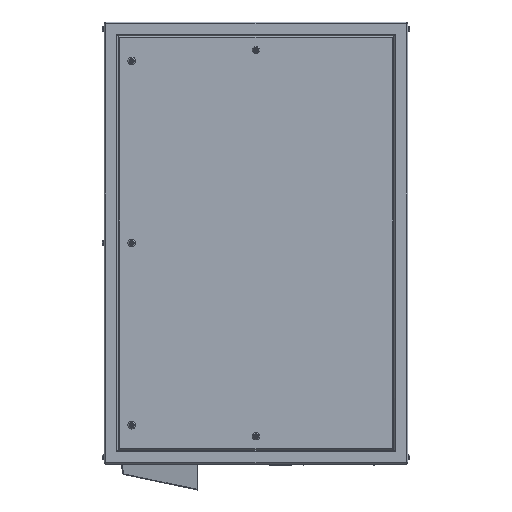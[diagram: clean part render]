
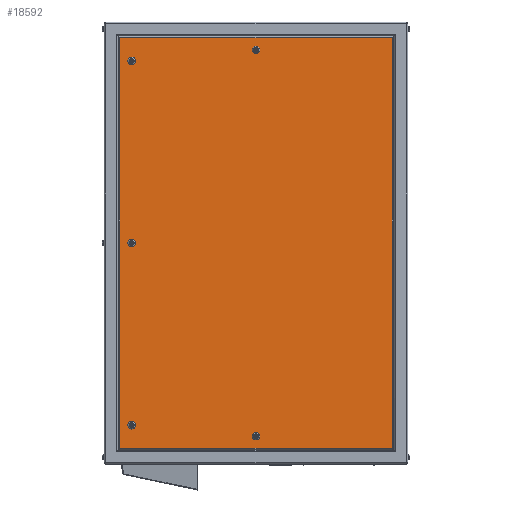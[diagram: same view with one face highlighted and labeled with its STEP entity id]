
A CAD part, left-side view. The second image highlights one B-rep face of the part: STEP entity #18592.
In plain terms, the highlighted planar face has unit normal (-1, 0, 0).
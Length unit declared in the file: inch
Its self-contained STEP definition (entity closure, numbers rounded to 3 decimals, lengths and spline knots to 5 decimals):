
#136 = LINE ( 'NONE', #12758, #4534 ) ;
#464 = CARTESIAN_POINT ( 'NONE',  ( -14., 22., -29.74 ) ) ;
#640 = DIRECTION ( 'NONE',  ( 1., 0., 0. ) ) ;
#699 = CARTESIAN_POINT ( 'NONE',  ( -14., 0., -28.5 ) ) ;
#931 = ORIENTED_EDGE ( 'NONE', *, *, #11203, .T. ) ;
#943 = DIRECTION ( 'NONE',  ( 1., 0., 0. ) ) ;
#961 = DIRECTION ( 'NONE',  ( 0., 0., 1. ) ) ;
#1279 = VERTEX_POINT ( 'NONE', #16439 ) ;
#1306 = FACE_OUTER_BOUND ( 'NONE', #6631, .T. ) ;
#1376 = ORIENTED_EDGE ( 'NONE', *, *, #6608, .T. ) ;
#1761 = CARTESIAN_POINT ( 'NONE',  ( -14., 0., -27.95 ) ) ;
#2050 = ORIENTED_EDGE ( 'NONE', *, *, #22556, .T. ) ;
#2316 = EDGE_CURVE ( 'NONE', #18828, #3934, #4127, .T. ) ;
#2328 = CARTESIAN_POINT ( 'NONE',  ( -14., 18., 26.375 ) ) ;
#2762 = CARTESIAN_POINT ( 'NONE',  ( -14., -19.74, -29.74 ) ) ;
#2791 = DIRECTION ( 'NONE',  ( 0., 1., 0. ) ) ;
#2845 = CARTESIAN_POINT ( 'NONE',  ( -14., 0., 28.5 ) ) ;
#2982 = CIRCLE ( 'NONE', #19276, 0.55 ) ;
#3059 = FACE_BOUND ( 'NONE', #6603, .T. ) ;
#3143 = ORIENTED_EDGE ( 'NONE', *, *, #19716, .T. ) ;
#3171 = ORIENTED_EDGE ( 'NONE', *, *, #13717, .T. ) ;
#3178 = AXIS2_PLACEMENT_3D ( 'NONE', #2328, #21908, #9623 ) ;
#3304 = AXIS2_PLACEMENT_3D ( 'NONE', #7076, #23402, #6714 ) ;
#3613 = CIRCLE ( 'NONE', #14643, 0.55 ) ;
#3934 = VERTEX_POINT ( 'NONE', #15790 ) ;
#3949 = CARTESIAN_POINT ( 'NONE',  ( -14., 0., 27.95 ) ) ;
#4015 = EDGE_CURVE ( 'NONE', #5416, #6427, #20135, .T. ) ;
#4127 = CIRCLE ( 'NONE', #6814, 0.55 ) ;
#4374 = VERTEX_POINT ( 'NONE', #6474 ) ;
#4534 = VECTOR ( 'NONE', #12526, 39.37008 ) ;
#4721 = CARTESIAN_POINT ( 'NONE',  ( -14., 0., 27.4 ) ) ;
#4859 = CARTESIAN_POINT ( 'NONE',  ( -14., 18., 25.825 ) ) ;
#5384 = DIRECTION ( 'NONE',  ( 1., 0., 0. ) ) ;
#5416 = VERTEX_POINT ( 'NONE', #6650 ) ;
#5625 = CARTESIAN_POINT ( 'NONE',  ( -14., 0., 27.95 ) ) ;
#6026 = ORIENTED_EDGE ( 'NONE', *, *, #19816, .T. ) ;
#6038 = DIRECTION ( 'NONE',  ( 0., -1., 0. ) ) ;
#6096 = VERTEX_POINT ( 'NONE', #11451 ) ;
#6421 = CARTESIAN_POINT ( 'NONE',  ( -14., 0., -27.95 ) ) ;
#6427 = VERTEX_POINT ( 'NONE', #2762 ) ;
#6474 = CARTESIAN_POINT ( 'NONE',  ( -14., -19.74, 29.74 ) ) ;
#6603 = EDGE_LOOP ( 'NONE', ( #1376, #7640 ) ) ;
#6606 = CIRCLE ( 'NONE', #3178, 0.55 ) ;
#6608 = EDGE_CURVE ( 'NONE', #3934, #18828, #15841, .T. ) ;
#6631 = EDGE_LOOP ( 'NONE', ( #10860, #7754, #21636, #931 ) ) ;
#6650 = CARTESIAN_POINT ( 'NONE',  ( -14., 19.74, -29.74 ) ) ;
#6658 = DIRECTION ( 'NONE',  ( 1., 0., 0. ) ) ;
#6714 = DIRECTION ( 'NONE',  ( 0., 0., -1. ) ) ;
#6739 = CARTESIAN_POINT ( 'NONE',  ( -14., 18., -25.825 ) ) ;
#6770 = CARTESIAN_POINT ( 'NONE',  ( -14., 22., -32. ) ) ;
#6814 = AXIS2_PLACEMENT_3D ( 'NONE', #8873, #10665, #6955 ) ;
#6955 = DIRECTION ( 'NONE',  ( 0., 0., -1. ) ) ;
#7063 = EDGE_CURVE ( 'NONE', #22438, #12779, #3613, .T. ) ;
#7076 = CARTESIAN_POINT ( 'NONE',  ( -14., 18., 0. ) ) ;
#7149 = EDGE_CURVE ( 'NONE', #6427, #4374, #7433, .T. ) ;
#7215 = DIRECTION ( 'NONE',  ( 1., 0., 0. ) ) ;
#7339 = DIRECTION ( 'NONE',  ( 1., 0., 0. ) ) ;
#7383 = DIRECTION ( 'NONE',  ( 1., 0., 0. ) ) ;
#7433 = LINE ( 'NONE', #14668, #8181 ) ;
#7470 = ORIENTED_EDGE ( 'NONE', *, *, #22012, .T. ) ;
#7640 = ORIENTED_EDGE ( 'NONE', *, *, #2316, .T. ) ;
#7754 = ORIENTED_EDGE ( 'NONE', *, *, #7149, .T. ) ;
#7880 = EDGE_LOOP ( 'NONE', ( #14223, #3171 ) ) ;
#7894 = DIRECTION ( 'NONE',  ( 0., 0., -1. ) ) ;
#7983 = ORIENTED_EDGE ( 'NONE', *, *, #18196, .T. ) ;
#8158 = AXIS2_PLACEMENT_3D ( 'NONE', #6770, #943, #15419 ) ;
#8181 = VECTOR ( 'NONE', #12915, 39.37008 ) ;
#8197 = FACE_BOUND ( 'NONE', #21609, .T. ) ;
#8297 = CARTESIAN_POINT ( 'NONE',  ( -14., 22., 29.74 ) ) ;
#8428 = CARTESIAN_POINT ( 'NONE',  ( -14., 0., -27.4 ) ) ;
#8618 = AXIS2_PLACEMENT_3D ( 'NONE', #6421, #6658, #961 ) ;
#8710 = DIRECTION ( 'NONE',  ( 0., 0., -1. ) ) ;
#8873 = CARTESIAN_POINT ( 'NONE',  ( -14., 18., -26.375 ) ) ;
#8944 = EDGE_LOOP ( 'NONE', ( #7983, #22021 ) ) ;
#9242 = VERTEX_POINT ( 'NONE', #22060 ) ;
#9623 = DIRECTION ( 'NONE',  ( 0., 0., -1. ) ) ;
#10339 = LINE ( 'NONE', #8297, #20965 ) ;
#10479 = PLANE ( 'NONE',  #8158 ) ;
#10648 = VERTEX_POINT ( 'NONE', #8428 ) ;
#10665 = DIRECTION ( 'NONE',  ( 1., 0., 0. ) ) ;
#10860 = ORIENTED_EDGE ( 'NONE', *, *, #4015, .T. ) ;
#11171 = VERTEX_POINT ( 'NONE', #21594 ) ;
#11203 = EDGE_CURVE ( 'NONE', #1279, #5416, #136, .T. ) ;
#11451 = CARTESIAN_POINT ( 'NONE',  ( -14., 18., 0.55 ) ) ;
#11698 = AXIS2_PLACEMENT_3D ( 'NONE', #22075, #640, #7894 ) ;
#12526 = DIRECTION ( 'NONE',  ( 0., 0., -1. ) ) ;
#12758 = CARTESIAN_POINT ( 'NONE',  ( -14., 19.74, -32. ) ) ;
#12779 = VERTEX_POINT ( 'NONE', #2845 ) ;
#12915 = DIRECTION ( 'NONE',  ( 0., 0., 1. ) ) ;
#13260 = VERTEX_POINT ( 'NONE', #4859 ) ;
#13717 = EDGE_CURVE ( 'NONE', #12779, #22438, #2982, .T. ) ;
#13919 = FACE_BOUND ( 'NONE', #19033, .T. ) ;
#13931 = EDGE_CURVE ( 'NONE', #9242, #13260, #18510, .T. ) ;
#14223 = ORIENTED_EDGE ( 'NONE', *, *, #7063, .T. ) ;
#14643 = AXIS2_PLACEMENT_3D ( 'NONE', #3949, #7215, #21626 ) ;
#14668 = CARTESIAN_POINT ( 'NONE',  ( -14., -19.74, -32. ) ) ;
#14687 = AXIS2_PLACEMENT_3D ( 'NONE', #20214, #7339, #18672 ) ;
#15419 = DIRECTION ( 'NONE',  ( 0., 0., -1. ) ) ;
#15790 = CARTESIAN_POINT ( 'NONE',  ( -14., 18., -26.925 ) ) ;
#15841 = CIRCLE ( 'NONE', #11698, 0.55 ) ;
#16163 = CARTESIAN_POINT ( 'NONE',  ( -14., 18., 26.375 ) ) ;
#16178 = EDGE_CURVE ( 'NONE', #4374, #1279, #10339, .T. ) ;
#16189 = AXIS2_PLACEMENT_3D ( 'NONE', #1761, #23004, #21206 ) ;
#16439 = CARTESIAN_POINT ( 'NONE',  ( -14., 19.74, 29.74 ) ) ;
#16574 = CIRCLE ( 'NONE', #16189, 0.55 ) ;
#16936 = CIRCLE ( 'NONE', #3304, 0.55 ) ;
#17410 = FACE_BOUND ( 'NONE', #7880, .T. ) ;
#18196 = EDGE_CURVE ( 'NONE', #13260, #9242, #6606, .T. ) ;
#18202 = VERTEX_POINT ( 'NONE', #699 ) ;
#18510 = CIRCLE ( 'NONE', #21548, 0.55 ) ;
#18592 = ADVANCED_FACE ( 'NONE', ( #8197, #17410, #3059, #13919, #22861, #1306 ), #10479, .F. ) ;
#18672 = DIRECTION ( 'NONE',  ( 0., 0., -1. ) ) ;
#18828 = VERTEX_POINT ( 'NONE', #6739 ) ;
#19033 = EDGE_LOOP ( 'NONE', ( #6026, #3143 ) ) ;
#19276 = AXIS2_PLACEMENT_3D ( 'NONE', #5625, #5384, #19830 ) ;
#19716 = EDGE_CURVE ( 'NONE', #6096, #11171, #20693, .T. ) ;
#19816 = EDGE_CURVE ( 'NONE', #11171, #6096, #16936, .T. ) ;
#19830 = DIRECTION ( 'NONE',  ( 0., 0., -1. ) ) ;
#20135 = LINE ( 'NONE', #464, #20542 ) ;
#20214 = CARTESIAN_POINT ( 'NONE',  ( -14., 18., 0. ) ) ;
#20286 = CIRCLE ( 'NONE', #8618, 0.55 ) ;
#20542 = VECTOR ( 'NONE', #6038, 39.37008 ) ;
#20693 = CIRCLE ( 'NONE', #14687, 0.55 ) ;
#20965 = VECTOR ( 'NONE', #2791, 39.37008 ) ;
#21206 = DIRECTION ( 'NONE',  ( 0., 0., 1. ) ) ;
#21548 = AXIS2_PLACEMENT_3D ( 'NONE', #16163, #7383, #8710 ) ;
#21594 = CARTESIAN_POINT ( 'NONE',  ( -14., 18., -0.55 ) ) ;
#21609 = EDGE_LOOP ( 'NONE', ( #7470, #2050 ) ) ;
#21626 = DIRECTION ( 'NONE',  ( 0., 0., -1. ) ) ;
#21636 = ORIENTED_EDGE ( 'NONE', *, *, #16178, .T. ) ;
#21908 = DIRECTION ( 'NONE',  ( 1., 0., 0. ) ) ;
#22012 = EDGE_CURVE ( 'NONE', #18202, #10648, #20286, .T. ) ;
#22021 = ORIENTED_EDGE ( 'NONE', *, *, #13931, .T. ) ;
#22060 = CARTESIAN_POINT ( 'NONE',  ( -14., 18., 26.925 ) ) ;
#22075 = CARTESIAN_POINT ( 'NONE',  ( -14., 18., -26.375 ) ) ;
#22438 = VERTEX_POINT ( 'NONE', #4721 ) ;
#22556 = EDGE_CURVE ( 'NONE', #10648, #18202, #16574, .T. ) ;
#22861 = FACE_BOUND ( 'NONE', #8944, .T. ) ;
#23004 = DIRECTION ( 'NONE',  ( 1., 0., 0. ) ) ;
#23402 = DIRECTION ( 'NONE',  ( 1., 0., 0. ) ) ;
